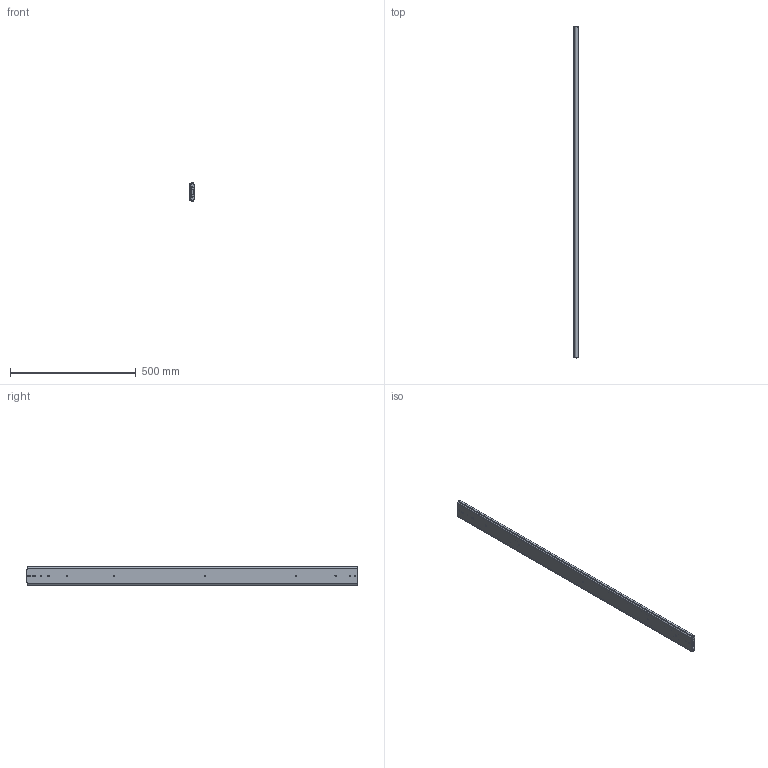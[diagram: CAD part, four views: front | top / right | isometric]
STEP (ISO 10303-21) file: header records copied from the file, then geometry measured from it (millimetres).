
FILE_DESCRIPTION(/* description */ ('Unknown'),/* implementation_level */ '2;1');
FILE_NAME(/* name */ '76J01-52 close',/* time_stamp */ '2024-07-30T09:50:43+08:00',/* author */ ('Unknown'),/* organization */ ('Unknown'),/* preprocessor_version */ 'ST-DEVELOPER v18.104',/* originating_system */ 'Solid Edge',/* authorisation */ 'Unknown');
FILE_SCHEMA (('AUTOMOTIVE_DESIGN {1 0 10303 214 3 1 1}'));
Length unit declared in the file: millimetre
Products named in the file (4): 76J01-52 close; 76J01 52 inch ¤º ð¦·; 76J01 52 吋; 76J01 52 嬪
Assembly tree (3 placements, depth 2):
  76J01-52 close
    76J01 52 inch ¤º ð¦·
    76J01 52 吋
    76J01 52 嬪
Bounding box: 19.3 x 1320.8 x 76.76 mm (x, y, z)
Volume: 1043171.8 mm3; surface area: 648657.4 mm2
Topology: 3 solids, 3 shells, 196 faces, 606 edges, 410 vertices
Faces by surface type: plane 104, cylinder 92
Full cylindrical faces by diameter (mm): 5.2 x16, 7.1 x2
Entity records: 7179 total; most frequent: CARTESIAN_POINT 1168, DIRECTION 1152, ORIENTED_EDGE 1140, EDGE_CURVE 570, VERTEX_POINT 392, LINE 384, VECTOR 384, AXIS2_PLACEMENT_3D 384
